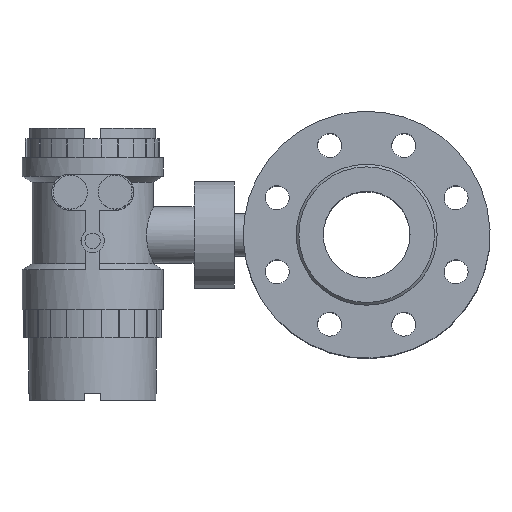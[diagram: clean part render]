
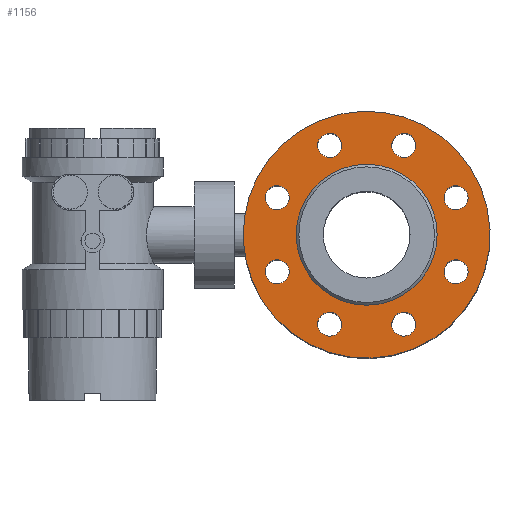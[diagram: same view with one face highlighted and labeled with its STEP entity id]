
A CAD part, top view. The second image highlights one B-rep face of the part: STEP entity #1156.
In plain terms, the highlighted planar face has unit normal (0, 0, 1).
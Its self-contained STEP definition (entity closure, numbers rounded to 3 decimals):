
#1156=ADVANCED_FACE('',(#1414,#1415,#1416,#1417,#1418,#1419,#1420,#1421,
#1422,#1423),#1270,.T.);
#1270=PLANE('',#4428);
#1414=FACE_BOUND('',#1736,.T.);
#1415=FACE_BOUND('',#1737,.T.);
#1416=FACE_BOUND('',#1738,.T.);
#1417=FACE_BOUND('',#1739,.T.);
#1418=FACE_BOUND('',#1740,.T.);
#1419=FACE_BOUND('',#1741,.T.);
#1420=FACE_BOUND('',#1742,.T.);
#1421=FACE_BOUND('',#1743,.T.);
#1422=FACE_BOUND('',#1744,.T.);
#1423=FACE_BOUND('',#1745,.T.);
#1736=EDGE_LOOP('',(#2822));
#1737=EDGE_LOOP('',(#2823));
#1738=EDGE_LOOP('',(#2824));
#1739=EDGE_LOOP('',(#2825));
#1740=EDGE_LOOP('',(#2826));
#1741=EDGE_LOOP('',(#2827));
#1742=EDGE_LOOP('',(#2828));
#1743=EDGE_LOOP('',(#2829));
#1744=EDGE_LOOP('',(#2830));
#1745=EDGE_LOOP('',(#2831));
#2822=ORIENTED_EDGE('',*,*,#3765,.F.);
#2823=ORIENTED_EDGE('',*,*,#3748,.F.);
#2824=ORIENTED_EDGE('',*,*,#3752,.T.);
#2825=ORIENTED_EDGE('',*,*,#3756,.T.);
#2826=ORIENTED_EDGE('',*,*,#3760,.T.);
#2827=ORIENTED_EDGE('',*,*,#3764,.T.);
#2828=ORIENTED_EDGE('',*,*,#3762,.T.);
#2829=ORIENTED_EDGE('',*,*,#3758,.F.);
#2830=ORIENTED_EDGE('',*,*,#3754,.T.);
#2831=ORIENTED_EDGE('',*,*,#3750,.F.);
#3205=VERTEX_POINT('',#6889);
#3207=VERTEX_POINT('',#6894);
#3209=VERTEX_POINT('',#6899);
#3211=VERTEX_POINT('',#6904);
#3213=VERTEX_POINT('',#6909);
#3215=VERTEX_POINT('',#6914);
#3217=VERTEX_POINT('',#6919);
#3219=VERTEX_POINT('',#6924);
#3221=VERTEX_POINT('',#6929);
#3222=VERTEX_POINT('',#6933);
#3748=EDGE_CURVE('',#3205,#3205,#3969,.T.);
#3750=EDGE_CURVE('',#3207,#3207,#3971,.T.);
#3752=EDGE_CURVE('',#3209,#3209,#3973,.T.);
#3754=EDGE_CURVE('',#3211,#3211,#3975,.T.);
#3756=EDGE_CURVE('',#3213,#3213,#3977,.T.);
#3758=EDGE_CURVE('',#3215,#3215,#3979,.T.);
#3760=EDGE_CURVE('',#3217,#3217,#3981,.T.);
#3762=EDGE_CURVE('',#3219,#3219,#3983,.T.);
#3764=EDGE_CURVE('',#3221,#3221,#3985,.T.);
#3765=EDGE_CURVE('',#3222,#3222,#3986,.T.);
#3969=CIRCLE('',#4400,92.5);
#3971=CIRCLE('',#4403,9.);
#3973=CIRCLE('',#4406,9.);
#3975=CIRCLE('',#4409,9.);
#3977=CIRCLE('',#4412,9.);
#3979=CIRCLE('',#4415,9.);
#3981=CIRCLE('',#4418,9.);
#3983=CIRCLE('',#4421,9.);
#3985=CIRCLE('',#4424,9.);
#3986=CIRCLE('',#4427,52.828);
#4400=AXIS2_PLACEMENT_3D('',#6888,#5554,#5555);
#4403=AXIS2_PLACEMENT_3D('',#6893,#5560,#5561);
#4406=AXIS2_PLACEMENT_3D('',#6898,#5566,#5567);
#4409=AXIS2_PLACEMENT_3D('',#6903,#5572,#5573);
#4412=AXIS2_PLACEMENT_3D('',#6908,#5578,#5579);
#4415=AXIS2_PLACEMENT_3D('',#6913,#5584,#5585);
#4418=AXIS2_PLACEMENT_3D('',#6918,#5590,#5591);
#4421=AXIS2_PLACEMENT_3D('',#6923,#5596,#5597);
#4424=AXIS2_PLACEMENT_3D('',#6928,#5602,#5603);
#4427=AXIS2_PLACEMENT_3D('',#6932,#5608,#5609);
#4428=AXIS2_PLACEMENT_3D('',#6934,#5610,#5611);
#5554=DIRECTION('',(0.,0.,-1.));
#5555=DIRECTION('',(-0.924,-0.383,0.));
#5560=DIRECTION('',(0.,0.,1.));
#5561=DIRECTION('',(-0.924,-0.383,0.));
#5566=DIRECTION('',(0.,0.,-1.));
#5567=DIRECTION('',(-0.924,-0.383,0.));
#5572=DIRECTION('',(0.,0.,-1.));
#5573=DIRECTION('',(-0.924,-0.383,0.));
#5578=DIRECTION('',(0.,0.,-1.));
#5579=DIRECTION('',(-0.924,-0.383,0.));
#5584=DIRECTION('',(0.,0.,1.));
#5585=DIRECTION('',(-0.924,-0.383,0.));
#5590=DIRECTION('',(0.,0.,-1.));
#5591=DIRECTION('',(-0.924,-0.383,0.));
#5596=DIRECTION('',(0.,0.,-1.));
#5597=DIRECTION('',(-0.924,-0.383,0.));
#5602=DIRECTION('',(0.,0.,-1.));
#5603=DIRECTION('',(-0.924,-0.383,0.));
#5608=DIRECTION('',(0.,0.,1.));
#5609=DIRECTION('',(1.,0.,0.));
#5610=DIRECTION('',(0.,0.,1.));
#5611=DIRECTION('',(-0.924,-0.383,0.));
#6888=CARTESIAN_POINT('',(205.3,0.,-0.5));
#6889=CARTESIAN_POINT('',(119.841,-35.398,-0.5));
#6893=CARTESIAN_POINT('',(272.281,-27.745,-0.5));
#6894=CARTESIAN_POINT('',(263.966,-31.189,-0.5));
#6898=CARTESIAN_POINT('',(233.045,-66.981,-0.5));
#6899=CARTESIAN_POINT('',(224.73,-70.425,-0.5));
#6903=CARTESIAN_POINT('',(177.555,-66.981,-0.5));
#6904=CARTESIAN_POINT('',(169.241,-70.425,-0.5));
#6908=CARTESIAN_POINT('',(138.319,-27.745,-0.5));
#6909=CARTESIAN_POINT('',(130.004,-31.189,-0.5));
#6913=CARTESIAN_POINT('',(138.319,27.745,-0.5));
#6914=CARTESIAN_POINT('',(130.004,24.3,-0.5));
#6918=CARTESIAN_POINT('',(177.555,66.981,-0.5));
#6919=CARTESIAN_POINT('',(169.241,63.537,-0.5));
#6923=CARTESIAN_POINT('',(233.045,66.981,-0.5));
#6924=CARTESIAN_POINT('',(224.73,63.537,-0.5));
#6928=CARTESIAN_POINT('',(272.281,27.745,-0.5));
#6929=CARTESIAN_POINT('',(263.966,24.3,-0.5));
#6932=CARTESIAN_POINT('',(205.3,0.,-0.5));
#6933=CARTESIAN_POINT('',(258.128,0.,-0.5));
#6934=CARTESIAN_POINT('',(205.3,0.,-0.5));
